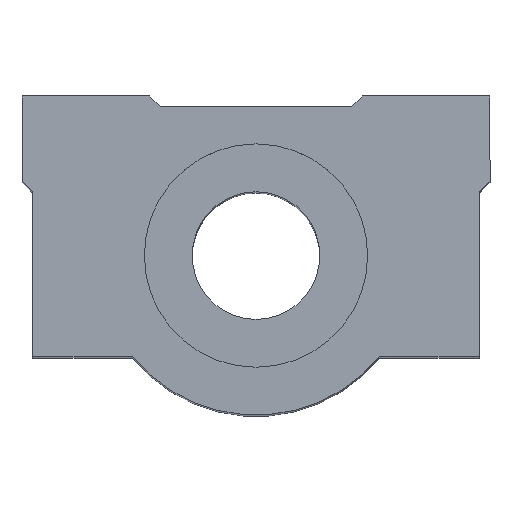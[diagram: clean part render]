
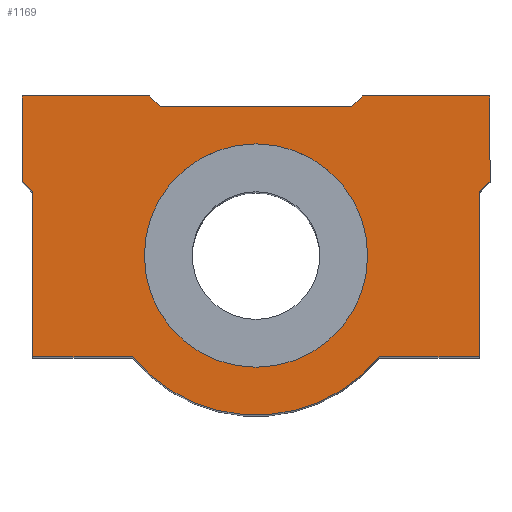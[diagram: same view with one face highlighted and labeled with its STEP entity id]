
A CAD part, top view. The second image highlights one B-rep face of the part: STEP entity #1169.
In plain terms, the highlighted planar face has unit normal (0, 0, 1).
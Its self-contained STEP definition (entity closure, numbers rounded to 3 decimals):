
#91=CARTESIAN_POINT('',(-11.209,4.198,75.0));
#92=VERTEX_POINT('',#91);
#101=CARTESIAN_POINT('',(9.791,4.198,75.0));
#102=VERTEX_POINT('',#101);
#103=CARTESIAN_POINT('',(-0.709,4.198,75.));
#104=DIRECTION('',(0.0,0.0,-1.0));
#105=DIRECTION('',(-1.0,0.0,0.0));
#106=AXIS2_PLACEMENT_3D('',#103,#104,#105);
#107=CIRCLE('',#106,10.5);
#108=EDGE_CURVE('',#102,#92,#107,.T.);
#640=CARTESIAN_POINT('',(-0.709,4.198,75.));
#641=DIRECTION('',(0.0,0.0,-1.0));
#642=DIRECTION('',(-1.0,0.0,0.0));
#643=AXIS2_PLACEMENT_3D('',#640,#641,#642);
#644=CIRCLE('',#643,10.5);
#645=EDGE_CURVE('',#92,#102,#644,.T.);
#780=CARTESIAN_POINT('',(21.291,11.198,75.));
#781=VERTEX_POINT('',#780);
#782=CARTESIAN_POINT('',(20.291,10.198,75.));
#783=VERTEX_POINT('',#782);
#784=CARTESIAN_POINT('',(21.291,11.198,75.));
#785=DIRECTION('',(-0.707,-0.707,0.0));
#786=VECTOR('',#785,1.414);
#787=LINE('',#784,#786);
#788=EDGE_CURVE('',#781,#783,#787,.T.);
#811=CARTESIAN_POINT('',(20.291,-5.302,75.));
#812=VERTEX_POINT('',#811);
#813=CARTESIAN_POINT('',(20.291,10.198,75.));
#814=DIRECTION('',(0.0,-1.0,0.0));
#815=VECTOR('',#814,15.5);
#816=LINE('',#813,#815);
#817=EDGE_CURVE('',#783,#812,#816,.T.);
#835=CARTESIAN_POINT('',(10.899,-5.302,75.));
#836=VERTEX_POINT('',#835);
#837=CARTESIAN_POINT('',(20.291,-5.302,75.));
#838=DIRECTION('',(-1.0,0.0,0.0));
#839=VECTOR('',#838,9.392);
#840=LINE('',#837,#839);
#841=EDGE_CURVE('',#812,#836,#840,.T.);
#867=CARTESIAN_POINT('',(-12.317,-5.302,75.));
#868=VERTEX_POINT('',#867);
#869=CARTESIAN_POINT('',(-0.709,4.198,75.0));
#870=DIRECTION('',(0.0,0.0,-1.0));
#871=DIRECTION('',(0.774,0.633,0.0));
#872=AXIS2_PLACEMENT_3D('',#869,#870,#871);
#873=CIRCLE('',#872,15.);
#874=EDGE_CURVE('',#836,#868,#873,.T.);
#892=CARTESIAN_POINT('',(-21.709,-5.302,75.));
#893=VERTEX_POINT('',#892);
#894=CARTESIAN_POINT('',(-12.317,-5.302,75.));
#895=DIRECTION('',(-1.0,0.0,0.0));
#896=VECTOR('',#895,9.392);
#897=LINE('',#894,#896);
#898=EDGE_CURVE('',#868,#893,#897,.T.);
#924=CARTESIAN_POINT('',(-21.709,10.198,75.));
#925=VERTEX_POINT('',#924);
#926=CARTESIAN_POINT('',(-21.709,-5.302,75.));
#927=DIRECTION('',(0.0,1.0,0.0));
#928=VECTOR('',#927,15.5);
#929=LINE('',#926,#928);
#930=EDGE_CURVE('',#893,#925,#929,.T.);
#948=CARTESIAN_POINT('',(-22.709,11.198,75.));
#949=VERTEX_POINT('',#948);
#950=CARTESIAN_POINT('',(-21.709,10.198,75.));
#951=DIRECTION('',(-0.707,0.707,0.0));
#952=VECTOR('',#951,1.414);
#953=LINE('',#950,#952);
#954=EDGE_CURVE('',#925,#949,#953,.T.);
#972=CARTESIAN_POINT('',(-22.709,19.198,75.));
#973=VERTEX_POINT('',#972);
#974=CARTESIAN_POINT('',(-22.709,11.198,75.));
#975=DIRECTION('',(0.0,1.0,0.0));
#976=VECTOR('',#975,8.);
#977=LINE('',#974,#976);
#978=EDGE_CURVE('',#949,#973,#977,.T.);
#996=CARTESIAN_POINT('',(-10.709,19.198,75.));
#997=VERTEX_POINT('',#996);
#998=CARTESIAN_POINT('',(-22.709,19.198,75.));
#999=DIRECTION('',(1.0,0.0,0.0));
#1000=VECTOR('',#999,12.);
#1001=LINE('',#998,#1000);
#1002=EDGE_CURVE('',#973,#997,#1001,.T.);
#1028=CARTESIAN_POINT('',(-9.709,18.198,75.));
#1029=VERTEX_POINT('',#1028);
#1030=CARTESIAN_POINT('',(-10.709,19.198,75.));
#1031=DIRECTION('',(0.707,-0.707,0.0));
#1032=VECTOR('',#1031,1.414);
#1033=LINE('',#1030,#1032);
#1034=EDGE_CURVE('',#997,#1029,#1033,.T.);
#1052=CARTESIAN_POINT('',(8.291,18.198,75.));
#1053=VERTEX_POINT('',#1052);
#1054=CARTESIAN_POINT('',(-9.709,18.198,75.));
#1055=DIRECTION('',(1.0,0.0,0.0));
#1056=VECTOR('',#1055,18.0);
#1057=LINE('',#1054,#1056);
#1058=EDGE_CURVE('',#1029,#1053,#1057,.T.);
#1076=CARTESIAN_POINT('',(9.291,19.198,75.));
#1077=VERTEX_POINT('',#1076);
#1078=CARTESIAN_POINT('',(8.291,18.198,75.));
#1079=DIRECTION('',(0.707,0.707,0.0));
#1080=VECTOR('',#1079,1.414);
#1081=LINE('',#1078,#1080);
#1082=EDGE_CURVE('',#1053,#1077,#1081,.T.);
#1100=CARTESIAN_POINT('',(21.291,19.198,75.));
#1101=VERTEX_POINT('',#1100);
#1102=CARTESIAN_POINT('',(9.291,19.198,75.));
#1103=DIRECTION('',(1.0,0.0,0.0));
#1104=VECTOR('',#1103,12.);
#1105=LINE('',#1102,#1104);
#1106=EDGE_CURVE('',#1077,#1101,#1105,.T.);
#1132=CARTESIAN_POINT('',(21.291,19.198,75.));
#1133=DIRECTION('',(0.0,-1.0,0.0));
#1134=VECTOR('',#1133,8.);
#1135=LINE('',#1132,#1134);
#1136=EDGE_CURVE('',#1101,#781,#1135,.T.);
#1144=CARTESIAN_POINT('',(-0.709,6.17,75.));
#1145=DIRECTION('',(0.0,0.0,1.0));
#1146=DIRECTION('',(1.0,0.0,0.0));
#1147=AXIS2_PLACEMENT_3D('',#1144,#1145,#1146);
#1148=PLANE('',#1147);
#1149=ORIENTED_EDGE('',*,*,#788,.F.);
#1150=ORIENTED_EDGE('',*,*,#1136,.F.);
#1151=ORIENTED_EDGE('',*,*,#1106,.F.);
#1152=ORIENTED_EDGE('',*,*,#1082,.F.);
#1153=ORIENTED_EDGE('',*,*,#1058,.F.);
#1154=ORIENTED_EDGE('',*,*,#1034,.F.);
#1155=ORIENTED_EDGE('',*,*,#1002,.F.);
#1156=ORIENTED_EDGE('',*,*,#978,.F.);
#1157=ORIENTED_EDGE('',*,*,#954,.F.);
#1158=ORIENTED_EDGE('',*,*,#930,.F.);
#1159=ORIENTED_EDGE('',*,*,#898,.F.);
#1160=ORIENTED_EDGE('',*,*,#874,.F.);
#1161=ORIENTED_EDGE('',*,*,#841,.F.);
#1162=ORIENTED_EDGE('',*,*,#817,.F.);
#1163=EDGE_LOOP('',(#1149,#1150,#1151,#1152,#1153,#1154,#1155,#1156,#1157,#1158,#1159,#1160,#1161,#1162));
#1164=FACE_OUTER_BOUND('',#1163,.T.);
#1165=ORIENTED_EDGE('',*,*,#108,.T.);
#1166=ORIENTED_EDGE('',*,*,#645,.T.);
#1167=EDGE_LOOP('',(#1165,#1166));
#1168=FACE_BOUND('',#1167,.T.);
#1169=ADVANCED_FACE('',(#1164,#1168),#1148,.T.);
